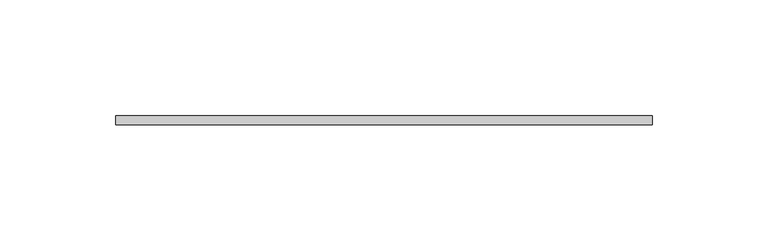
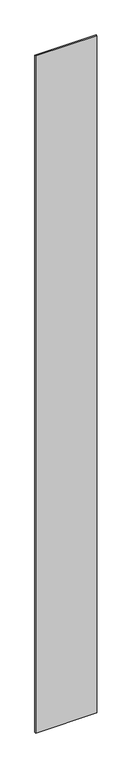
"""IFC4 building model written with IfcOpenShell, lengths in millimetres: plate geometry, Panel Flex Woodline : Panel Flex Woodline."""

from ifc_helpers import new_model, si_unit, origin, origin_with_axes, place, context, project, spatial, polyline, outline, extrude, source, transform, mapped, element, save


def plate_ed2b80f9(model_context):
    return source(origin(), model_context, "Body", "SweptSolid", [
        extrude(outline(polyline([(116.0, 19.5), (116.0, 15.5), (-116.0, 15.5), (-116.0, 19.5), (116.0, 19.5)])), origin_with_axes(), (0.0, 0.0, 1.0), 2716.0),
    ])


if __name__ == "__main__":
    model = new_model("IFC4")
    model_context = context("Model", 3, world=origin())
    ifc_project = project(units=[si_unit("LENGTHUNIT", "METRE", prefix="MILLI")], contexts=[model_context])
    site = spatial("IfcSite", under=ifc_project)
    building = spatial("IfcBuilding", under=site)
    placement = place(None, origin())
    plate_shape = plate_ed2b80f9(model_context)
    element("IfcPlate", 1, ObjectType="Panel Flex Woodline : Panel Flex Woodline", at=placement, inside=building, context=model_context, shape_type="MappedRepresentation", body=[
        mapped(plate_shape, transform((0.0, 0.0, 0.0), x_axis=(1.0, 0.0, 0.0), y_axis=(0.0, 1.0, 0.0), z_axis=(0.0, 0.0, 1.0))),
    ])
    save(model, "model.ifc")
